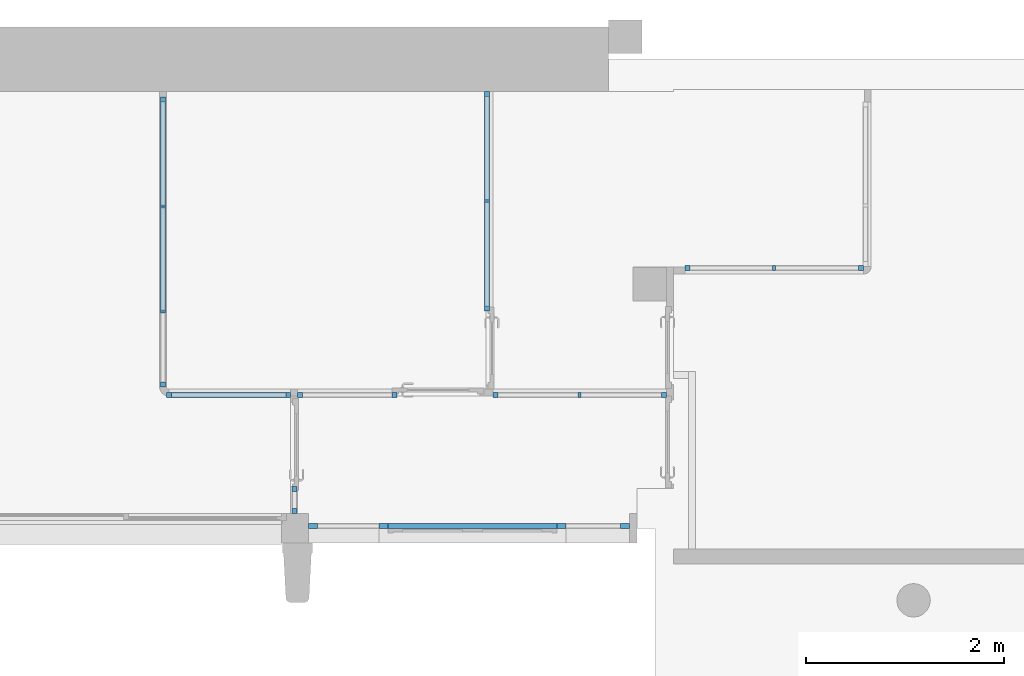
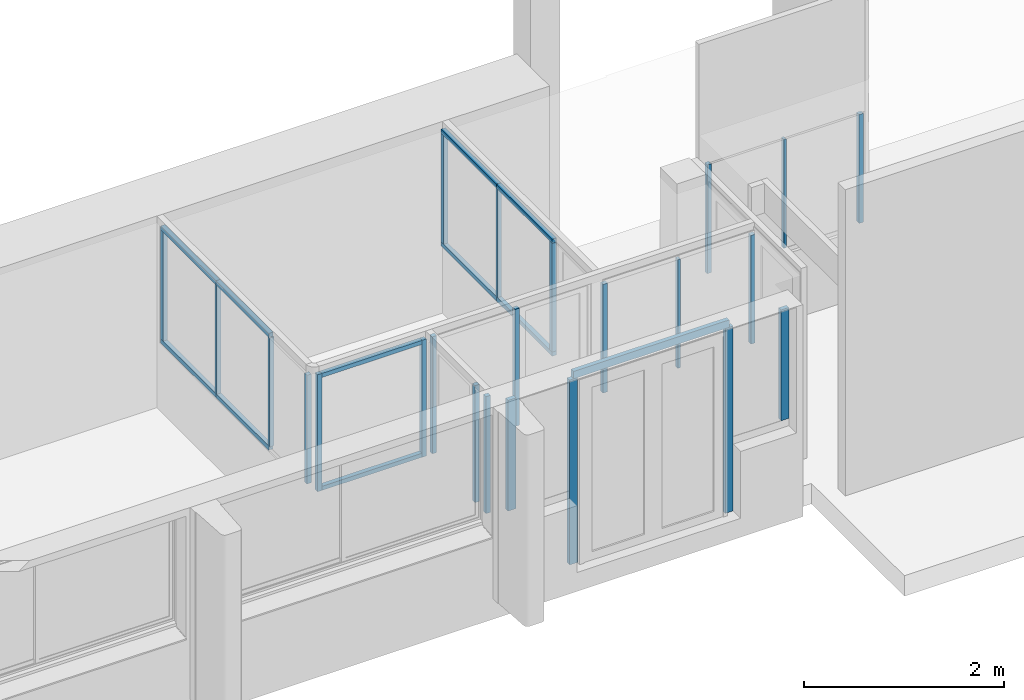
# One storey, part 2 of 19: 34 members, 8 elements without a shape of their own.
"""IFC4 building model written with IfcOpenShell, lengths in metres."""

from ifc_helpers import new_model, entity, si_unit, converted_unit, derived_unit, direction, frame, origin, place, context, subcontext, project, spatial, indexed_curve, outline, extrude, source, transform, mapped, material, type_object, type_shapes, element, aggregate, save


model = new_model("IFC4")

# Units and contexts
model_context = context("Model", 3, precision=1e-05, world=origin(), true_north=direction((6.12303176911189e-17, 1.0)))
body_context = subcontext(model_context, "Body", "Model", "MODEL_VIEW")
ifc_project = project(units=[si_unit("LENGTHUNIT", "METRE"), si_unit("AREAUNIT", "SQUARE_METRE"), si_unit("VOLUMEUNIT", "CUBIC_METRE"), converted_unit("PLANEANGLEUNIT", "DEGREE", entity("IfcRatioMeasure", 0.0174532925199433), si_unit("PLANEANGLEUNIT", "RADIAN"), dimensions=[0, 0, 0, 0, 0, 0, 0]), si_unit("MASSUNIT", "GRAM", prefix="KILO"), derived_unit("MASSDENSITYUNIT", [(si_unit("MASSUNIT", "GRAM", prefix="KILO"), 1), (si_unit("LENGTHUNIT", "METRE"), -3)]), derived_unit("MOMENTOFINERTIAUNIT", [(si_unit("LENGTHUNIT", "METRE"), 4)]), si_unit("TIMEUNIT", "SECOND"), si_unit("FREQUENCYUNIT", "HERTZ"), si_unit("THERMODYNAMICTEMPERATUREUNIT", "DEGREE_CELSIUS"), derived_unit("THERMALTRANSMITTANCEUNIT", [(si_unit("MASSUNIT", "GRAM", prefix="KILO"), 1), (si_unit("THERMODYNAMICTEMPERATUREUNIT", "KELVIN"), -1), (si_unit("TIMEUNIT", "SECOND"), -3)]), derived_unit("VOLUMETRICFLOWRATEUNIT", [(si_unit("LENGTHUNIT", "METRE"), 3), (si_unit("TIMEUNIT", "SECOND"), -1)]), si_unit("ELECTRICCURRENTUNIT", "AMPERE"), si_unit("ELECTRICVOLTAGEUNIT", "VOLT"), si_unit("POWERUNIT", "WATT"), si_unit("FORCEUNIT", "NEWTON", prefix="KILO"), si_unit("ILLUMINANCEUNIT", "LUX"), si_unit("LUMINOUSFLUXUNIT", "LUMEN"), si_unit("LUMINOUSINTENSITYUNIT", "CANDELA"), derived_unit("USERDEFINED", [(si_unit("MASSUNIT", "GRAM", prefix="KILO"), -1), (si_unit("LENGTHUNIT", "METRE"), -2), (si_unit("TIMEUNIT", "SECOND"), 3), (si_unit("LUMINOUSFLUXUNIT", "LUMEN"), 1)]), derived_unit("LINEARVELOCITYUNIT", [(si_unit("LENGTHUNIT", "METRE"), 1), (si_unit("TIMEUNIT", "SECOND"), -1)]), si_unit("PRESSUREUNIT", "PASCAL"), derived_unit("USERDEFINED", [(si_unit("LENGTHUNIT", "METRE"), -2), (si_unit("MASSUNIT", "GRAM", prefix="KILO"), 1), (si_unit("TIMEUNIT", "SECOND"), -2)]), derived_unit("LINEARFORCEUNIT", [(si_unit("MASSUNIT", "GRAM", prefix="KILO"), 1), (si_unit("LENGTHUNIT", "METRE"), 1), (si_unit("TIMEUNIT", "SECOND"), -2), (si_unit("LENGTHUNIT", "METRE"), -1)]), derived_unit("PLANARFORCEUNIT", [(si_unit("MASSUNIT", "GRAM", prefix="KILO"), 1), (si_unit("LENGTHUNIT", "METRE"), 1), (si_unit("TIMEUNIT", "SECOND"), -2), (si_unit("LENGTHUNIT", "METRE"), -2)])], contexts=[model_context])

# Site, building, storey
site_placement = place(None, origin())
site = spatial("IfcSite", under=ifc_project, at=site_placement, Name="Default", CompositionType="ELEMENT")
building_placement = place(site_placement, origin())
building = spatial("IfcBuilding", under=site, at=building_placement, Name="HOTEL CONSULAIRE BOULOGNE SUR MER", CompositionType="ELEMENT")
storey_placement = place(building_placement, frame((0.0, 0.0, -4.01003075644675)))
storey = spatial("IfcBuildingStorey", under=building, at=storey_placement, Name="SS2", CompositionType="ELEMENT", Elevation=-4.01003075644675)

# Curtain wall, members
curtain_wall_type = type_object("IfcCurtainWallType", Name="Mur-rideau:Simple panneau", PredefinedType="NOTDEFINED")
curtain_wall_1_placement = place(storey_placement, frame((0.0, 0.0, 4.01003075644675)))
curtain_wall_1 = element("IfcCurtainWall", 1, at=curtain_wall_1_placement, inside=storey, type_object=curtain_wall_type, Name="Mur-rideau:Simple panneau", ObjectType="Mur-rideau:Simple panneau", PredefinedType="NOTDEFINED")
ifc_material_1 = material(Name="PVC, souple", Category="Plastique")
member_type_1 = type_object("IfcMemberType", Name="Meneau rectangulaire:90x50", PredefinedType="MULLION", material=ifc_material_1)
shared_shape_1 = source(origin(), body_context, "Body", "SweptSolid", [
    extrude(outline(indexed_curve([(-0.025, -0.045), (0.025, -0.045), (0.025, 0.045), (-0.025, 0.045), (-0.025, -0.045)], self_intersect=False)), frame((-0.045, -0.025, -1.79999364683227), z_axis=(0.0, 0.0, 1.0), x_axis=(0.0, -1.0, 0.0)), (0.0, 0.0, 1.0), 1.79999364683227),
])
type_shapes(member_type_1, [shared_shape_1])
member_1_placement = place(storey_placement, frame((-14.6093496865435, -14.8875756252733, 2.33), z_axis=(1.0, 0.0, 0.0), x_axis=(0.0, 0.0, 1.0)))
member_1 = element("IfcMember", 2, at=member_1_placement, type_object=member_type_1, material=ifc_material_1, Name="Meneau rectangulaire:90x50", ObjectType="Meneau rectangulaire:90x50", PredefinedType="MULLION", context=body_context, shape_type="MappedRepresentation", body=[
    mapped(shared_shape_1, transform((0.0, 0.0, 0.0), scale=1.0)),
])
member_type_2 = type_object("IfcMemberType", Name="Meneau rectangulaire:90x50", PredefinedType="MULLION", material=ifc_material_1)
shared_shape_2 = source(origin(), body_context, "Body", "SweptSolid", [
    extrude(outline(indexed_curve([(-0.025, -0.045), (0.025, -0.045), (0.025, 0.045), (-0.025, 0.045), (-0.025, -0.045)], self_intersect=False)), frame((-0.045, -0.025, -1.35356778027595), z_axis=(0.0, 0.0, 1.0), x_axis=(0.0, -1.0, 0.0)), (0.0, 0.0, 1.0), 1.35356778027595),
])
type_shapes(member_type_2, [shared_shape_2])
member_2_placement = place(storey_placement, frame((-17.1647787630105, -14.8875756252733, 2.24), z_axis=(0.0, 0.0, 1.0), x_axis=(-1.0, 0.0, 0.0)))
member_2 = element("IfcMember", 3, at=member_2_placement, type_object=member_type_2, material=ifc_material_1, Name="Meneau rectangulaire:90x50", ObjectType="Meneau rectangulaire:90x50", PredefinedType="MULLION", context=body_context, shape_type="MappedRepresentation", body=[
    mapped(shared_shape_2, transform((0.0, 0.0, 0.0), scale=1.0)),
])
member_type_3 = type_object("IfcMemberType", Name="Meneau rectangulaire:90x50", PredefinedType="MULLION", material=ifc_material_1)
shared_shape_3 = source(origin(), body_context, "Body", "SweptSolid", [
    extrude(outline(indexed_curve([(-0.025, -0.045), (0.025, -0.045), (0.025, 0.045), (-0.025, 0.045), (-0.025, -0.045)], self_intersect=False)), frame((0.0, -0.025, -2.26), z_axis=(0.0, 0.0, 1.0), x_axis=(0.0, -1.0, 0.0)), (0.0, 0.0, 1.0), 2.26),
])
type_shapes(member_type_3, [shared_shape_3])
member_3_placement = place(storey_placement, frame((-14.6093496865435, -14.8875756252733, -0.0199999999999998), z_axis=(0.0, 0.0, -1.0), x_axis=(1.0, 0.0, 0.0)))
member_3 = element("IfcMember", 4, at=member_3_placement, type_object=member_type_3, material=ifc_material_1, Name="Meneau rectangulaire:90x50", ObjectType="Meneau rectangulaire:90x50", PredefinedType="MULLION", context=body_context, shape_type="MappedRepresentation", body=[
    mapped(shared_shape_3, transform((0.0, 0.0, 0.0), scale=1.0)),
])
member_4_placement = place(storey_placement, frame((-16.4093433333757, -14.8875756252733, -0.0199999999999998), z_axis=(0.0, 0.0, -1.0), x_axis=(1.0, 0.0, 0.0)))
member_4 = element("IfcMember", 5, at=member_4_placement, type_object=member_type_3, material=ifc_material_1, Name="Meneau rectangulaire:90x50", ObjectType="Meneau rectangulaire:90x50", PredefinedType="MULLION", context=body_context, shape_type="MappedRepresentation", body=[
    mapped(shared_shape_3, transform((0.0, 0.0, 0.0), scale=1.0)),
])
member_type_4 = type_object("IfcMemberType", Name="Meneau rectangulaire:90x50", PredefinedType="MULLION", material=ifc_material_1)
shared_shape_4 = source(origin(), body_context, "Body", "SweptSolid", [
    extrude(outline(indexed_curve([(-0.025, -0.045), (0.025, -0.045), (0.025, 0.045), (-0.025, 0.045), (-0.025, -0.045)], self_intersect=False)), frame((-0.045, -0.025, -1.35356778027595), z_axis=(0.0, 0.0, 1.0), x_axis=(0.0, -1.0, 0.0)), (0.0, 0.0, 1.0), 1.35356778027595),
])
type_shapes(member_type_4, [shared_shape_4])
member_5_placement = place(storey_placement, frame((-13.9187787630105, -14.8875756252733, 0.886432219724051), z_axis=(0.0, 0.0, -1.0), x_axis=(1.0, 0.0, 0.0)))
member_5 = element("IfcMember", 6, at=member_5_placement, type_object=member_type_4, material=ifc_material_1, Name="Meneau rectangulaire:90x50", ObjectType="Meneau rectangulaire:90x50", PredefinedType="MULLION", context=body_context, shape_type="MappedRepresentation", body=[
    mapped(shared_shape_4, transform((0.0, 0.0, 0.0), scale=1.0)),
])
aggregate(curtain_wall_1, [member_1, member_2, member_3, member_5, member_4])

# Curtain wall, member
curtain_wall_2_placement = place(storey_placement, frame((0.0, 0.0, 4.01003075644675)))
curtain_wall_2 = element("IfcCurtainWall", 7, at=curtain_wall_2_placement, inside=storey, type_object=curtain_wall_type, Name="Mur-rideau:Simple panneau", ObjectType="Mur-rideau:Simple panneau", PredefinedType="NOTDEFINED")
ifc_material_2 = material(Name="PVC - Blanc", Category="Plastique")
member_type_5 = type_object("IfcMemberType", Name="Meneau rectangulaire:50x50 PVC BLANC", PredefinedType="MULLION", material=ifc_material_2)
shared_shape_5 = source(origin(), body_context, "Body", "SweptSolid", [
    extrude(outline(indexed_curve([(-0.025, -0.025), (0.025, -0.025), (0.025, 0.025), (-0.025, 0.025), (-0.025, -0.025)], self_intersect=False)), frame((-0.025, -0.025, -1.42926671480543), z_axis=(0.0, 0.0, 1.0), x_axis=(0.0, -1.0, 0.0)), (0.0, 0.0, 1.0), 1.42926671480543),
])
type_shapes(member_type_5, [shared_shape_5])
member_6_placement = place(storey_placement, frame((-17.2824892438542, -14.7375756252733, 2.25353263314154), z_axis=(0.0, 0.0, 1.0), x_axis=(0.0, -1.0, 0.0)))
member_6 = element("IfcMember", 8, at=member_6_placement, type_object=member_type_5, material=ifc_material_2, Name="Meneau rectangulaire:50x50 PVC BLANC", ObjectType="Meneau rectangulaire:50x50 PVC BLANC", PredefinedType="MULLION", context=body_context, shape_type="MappedRepresentation", body=[
    mapped(shared_shape_5, transform((0.0, 0.0, 0.0), scale=1.0)),
])

curtain_wall_3_placement = place(storey_placement, frame((0.0, 0.0, 4.01003075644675)))
curtain_wall_3 = element("IfcCurtainWall", 9, at=curtain_wall_3_placement, inside=storey, type_object=curtain_wall_type, Name="Mur-rideau:Simple panneau", ObjectType="Mur-rideau:Simple panneau", PredefinedType="NOTDEFINED")
member_7_placement = place(storey_placement, frame((-17.3467787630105, -13.51432416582, 2.25353263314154)))
member_7 = element("IfcMember", 10, at=member_7_placement, type_object=member_type_5, material=ifc_material_2, Name="Meneau rectangulaire:50x50 PVC BLANC", ObjectType="Meneau rectangulaire:50x50 PVC BLANC", PredefinedType="MULLION", context=body_context, shape_type="MappedRepresentation", body=[
    mapped(shared_shape_5, transform((0.0, 0.0, 0.0), scale=1.0)),
])

curtain_wall_4_placement = place(storey_placement, frame((0.0, 0.0, 4.01003075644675)))
curtain_wall_4 = element("IfcCurtainWall", 11, at=curtain_wall_4_placement, inside=storey, type_object=curtain_wall_type, Name="Mur-rideau:Simple panneau", ObjectType="Mur-rideau:Simple panneau", PredefinedType="NOTDEFINED")
member_8_placement = place(storey_placement, frame((-16.2711943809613, -13.51432416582, 2.25353263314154)))
member_8 = element("IfcMember", 12, at=member_8_placement, type_object=member_type_5, material=ifc_material_2, Name="Meneau rectangulaire:50x50 PVC BLANC", ObjectType="Meneau rectangulaire:50x50 PVC BLANC", PredefinedType="MULLION", context=body_context, shape_type="MappedRepresentation", body=[
    mapped(shared_shape_5, transform((0.0, 0.0, 0.0), scale=1.0)),
])

# Member
member_type_6 = type_object("IfcMemberType", Name="Meneau rectangulaire:50x50 PVC BLANC", PredefinedType="MULLION", material=ifc_material_2)
shared_shape_6 = source(origin(), body_context, "Body", "SweptSolid", [
    extrude(outline(indexed_curve([(-0.025, -0.025), (0.025, -0.025), (0.025, 0.025), (-0.025, 0.025), (-0.025, -0.025)], self_intersect=False)), frame((-0.025, -0.025, -1.42926671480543), z_axis=(0.0, 0.0, 1.0), x_axis=(0.0, -1.0, 0.0)), (0.0, 0.0, 1.0), 1.42926671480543),
])
type_shapes(member_type_6, [shared_shape_6])
member_9_placement = place(storey_placement, frame((-17.2824892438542, -14.4655756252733, 0.824265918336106), z_axis=(0.0, 0.0, -1.0), x_axis=(0.0, 1.0, 0.0)))
member_9 = element("IfcMember", 13, at=member_9_placement, type_object=member_type_6, material=ifc_material_2, Name="Meneau rectangulaire:50x50 PVC BLANC", ObjectType="Meneau rectangulaire:50x50 PVC BLANC", PredefinedType="MULLION", context=body_context, shape_type="MappedRepresentation", body=[
    mapped(shared_shape_6, transform((0.0, 0.0, 0.0), scale=1.0)),
])

aggregate(curtain_wall_2, [member_6, member_9])

member_10_placement = place(storey_placement, frame((-18.6037787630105, -13.51432416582, 0.824265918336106), z_axis=(0.0, 0.0, -1.0), x_axis=(-1.0, 0.0, 0.0)))
member_10 = element("IfcMember", 14, at=member_10_placement, type_object=member_type_6, material=ifc_material_2, Name="Meneau rectangulaire:50x50 PVC BLANC", ObjectType="Meneau rectangulaire:50x50 PVC BLANC", PredefinedType="MULLION", context=body_context, shape_type="MappedRepresentation", body=[
    mapped(shared_shape_6, transform((0.0, 0.0, 0.0), scale=1.0)),
])

member_11_placement = place(storey_placement, frame((-17.2767787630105, -13.51432416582, 0.824265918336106), z_axis=(0.0, 0.0, -1.0), x_axis=(-1.0, 0.0, 0.0)))
member_11 = element("IfcMember", 15, at=member_11_placement, type_object=member_type_6, material=ifc_material_2, Name="Meneau rectangulaire:50x50 PVC BLANC", ObjectType="Meneau rectangulaire:50x50 PVC BLANC", PredefinedType="MULLION", context=body_context, shape_type="MappedRepresentation", body=[
    mapped(shared_shape_6, transform((0.0, 0.0, 0.0), scale=1.0)),
])

aggregate(curtain_wall_4, [member_8, member_11])

# Curtain wall, member
curtain_wall_5_placement = place(storey_placement, frame((0.0, 0.0, 4.01003075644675)))
curtain_wall_5 = element("IfcCurtainWall", 16, at=curtain_wall_5_placement, inside=storey, type_object=curtain_wall_type, Name="Mur-rideau:Simple panneau", ObjectType="Mur-rideau:Simple panneau", PredefinedType="NOTDEFINED")
member_type_7 = type_object("IfcMemberType", Name="Meneau rectangulaire:50x50 PVC BLANC", PredefinedType="MULLION", material=ifc_material_2)
shared_shape_7 = source(origin(), body_context, "Body", "SweptSolid", [
    extrude(outline(indexed_curve([(-0.025, -0.025), (0.025, -0.025), (0.025, 0.025), (-0.025, 0.025), (-0.025, -0.025)], self_intersect=False)), frame((-0.025, -0.025, -1.32926671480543), z_axis=(0.0, 0.0, 1.0), x_axis=(0.0, -1.0, 0.0)), (0.0, 0.0, 1.0), 1.32926671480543),
])
type_shapes(member_type_7, [shared_shape_7])
member_12_placement = place(storey_placement, frame((-13.3579806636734, -12.2801492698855, 2.20353263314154), z_axis=(0.0, 0.0, 1.0), x_axis=(-1.0, 0.0, 0.0)))
member_12 = element("IfcMember", 17, at=member_12_placement, type_object=member_type_7, material=ifc_material_2, Name="Meneau rectangulaire:50x50 PVC BLANC", ObjectType="Meneau rectangulaire:50x50 PVC BLANC", PredefinedType="MULLION", context=body_context, shape_type="MappedRepresentation", body=[
    mapped(shared_shape_7, transform((0.0, 0.0, 0.0), scale=1.0)),
])

curtain_wall_6_placement = place(storey_placement, frame((0.0, 0.0, 4.01003075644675)))
curtain_wall_6 = element("IfcCurtainWall", 18, at=curtain_wall_6_placement, inside=storey, type_object=curtain_wall_type, Name="Mur-rideau:Simple panneau", ObjectType="Mur-rideau:Simple panneau", PredefinedType="NOTDEFINED")
member_13_placement = place(storey_placement, frame((-15.3371943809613, -12.6893241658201, 2.20353263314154), z_axis=(0.0, 0.0, 1.0), x_axis=(0.0, -1.0, 0.0)))
member_13 = element("IfcMember", 19, at=member_13_placement, type_object=member_type_7, material=ifc_material_2, Name="Meneau rectangulaire:50x50 PVC BLANC", ObjectType="Meneau rectangulaire:50x50 PVC BLANC", PredefinedType="MULLION", context=body_context, shape_type="MappedRepresentation", body=[
    mapped(shared_shape_7, transform((0.0, 0.0, 0.0), scale=1.0)),
])

curtain_wall_7_placement = place(storey_placement, frame((0.0, 0.0, 4.01003075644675)))
curtain_wall_7 = element("IfcCurtainWall", 20, at=curtain_wall_7_placement, inside=storey, type_object=curtain_wall_type, Name="Mur-rideau:Simple panneau", ObjectType="Mur-rideau:Simple panneau", PredefinedType="NOTDEFINED")
member_14_placement = place(storey_placement, frame((-13.5453496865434, -13.51432416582, 2.20353263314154)))
member_14 = element("IfcMember", 21, at=member_14_placement, type_object=member_type_7, material=ifc_material_2, Name="Meneau rectangulaire:50x50 PVC BLANC", ObjectType="Meneau rectangulaire:50x50 PVC BLANC", PredefinedType="MULLION", context=body_context, shape_type="MappedRepresentation", body=[
    mapped(shared_shape_7, transform((0.0, 0.0, 0.0), scale=1.0)),
])

curtain_wall_8_placement = place(storey_placement, frame((0.0, 0.0, 4.01003075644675)))
curtain_wall_8 = element("IfcCurtainWall", 22, at=curtain_wall_8_placement, inside=storey, type_object=curtain_wall_type, Name="Mur-rideau:Simple panneau", ObjectType="Mur-rideau:Simple panneau", PredefinedType="NOTDEFINED")
member_15_placement = place(storey_placement, frame((-18.6137787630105, -13.45532416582, 2.20353263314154), z_axis=(0.0, 0.0, 1.0), x_axis=(0.0, -1.0, 0.0)))
member_15 = element("IfcMember", 23, at=member_15_placement, type_object=member_type_7, material=ifc_material_2, Name="Meneau rectangulaire:50x50 PVC BLANC", ObjectType="Meneau rectangulaire:50x50 PVC BLANC", PredefinedType="MULLION", context=body_context, shape_type="MappedRepresentation", body=[
    mapped(shared_shape_7, transform((0.0, 0.0, 0.0), scale=1.0)),
])

# Member
member_type_8 = type_object("IfcMemberType", Name="Meneau rectangulaire:50x50 PVC BLANC", PredefinedType="MULLION", material=ifc_material_2)
shared_shape_8 = source(origin(), body_context, "Body", "SweptSolid", [
    extrude(outline(indexed_curve([(-0.025, -0.025), (0.025, -0.025), (0.025, 0.025), (-0.025, 0.025), (-0.025, -0.025)], self_intersect=False)), frame((-0.025, -0.025, -1.32926671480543), z_axis=(0.0, 0.0, 1.0), x_axis=(0.0, -1.0, 0.0)), (0.0, 0.0, 1.0), 1.32926671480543),
])
type_shapes(member_type_8, [shared_shape_8])
member_16_placement = place(storey_placement, frame((-11.5529610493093, -12.2801492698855, 0.874265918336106), z_axis=(0.0, 0.0, -1.0), x_axis=(1.0, 0.0, 0.0)))
member_16 = element("IfcMember", 24, at=member_16_placement, type_object=member_type_8, material=ifc_material_2, Name="Meneau rectangulaire:50x50 PVC BLANC", ObjectType="Meneau rectangulaire:50x50 PVC BLANC", PredefinedType="MULLION", context=body_context, shape_type="MappedRepresentation", body=[
    mapped(shared_shape_8, transform((0.0, 0.0, 0.0), scale=1.0)),
])

member_17_placement = place(storey_placement, frame((-15.3371943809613, -10.4663241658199, 0.874265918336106), z_axis=(0.0, 0.0, -1.0), x_axis=(0.0, 1.0, 0.0)))
member_17 = element("IfcMember", 25, at=member_17_placement, type_object=member_type_8, material=ifc_material_2, Name="Meneau rectangulaire:50x50 PVC BLANC", ObjectType="Meneau rectangulaire:50x50 PVC BLANC", PredefinedType="MULLION", context=body_context, shape_type="MappedRepresentation", body=[
    mapped(shared_shape_8, transform((0.0, 0.0, 0.0), scale=1.0)),
])

member_18_placement = place(storey_placement, frame((-15.3021943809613, -13.51432416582, 0.874265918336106), z_axis=(0.0, 0.0, -1.0), x_axis=(-1.0, 0.0, 0.0)))
member_18 = element("IfcMember", 26, at=member_18_placement, type_object=member_type_8, material=ifc_material_2, Name="Meneau rectangulaire:50x50 PVC BLANC", ObjectType="Meneau rectangulaire:50x50 PVC BLANC", PredefinedType="MULLION", context=body_context, shape_type="MappedRepresentation", body=[
    mapped(shared_shape_8, transform((0.0, 0.0, 0.0), scale=1.0)),
])

member_19_placement = place(storey_placement, frame((-18.6137787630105, -10.5244760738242, 0.874265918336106), z_axis=(0.0, 0.0, -1.0), x_axis=(0.0, 1.0, 0.0)))
member_19 = element("IfcMember", 27, at=member_19_placement, type_object=member_type_8, material=ifc_material_2, Name="Meneau rectangulaire:50x50 PVC BLANC", ObjectType="Meneau rectangulaire:50x50 PVC BLANC", PredefinedType="MULLION", context=body_context, shape_type="MappedRepresentation", body=[
    mapped(shared_shape_8, transform((0.0, 0.0, 0.0), scale=1.0)),
])

member_type_9 = type_object("IfcMemberType", Name="Meneau rectangulaire:50x30", PredefinedType="MULLION", material=ifc_material_2)
shared_shape_9 = source(origin(), body_context, "Body", "SweptSolid", [
    extrude(outline(indexed_curve([(-0.025, -0.015), (0.025, -0.015), (0.025, 0.015), (-0.025, 0.015), (-0.025, -0.015)], self_intersect=False)), frame((0.0, -0.025, -1.32926671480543), z_axis=(0.0, 0.0, 1.0), x_axis=(0.0, -1.0, 0.0)), (0.0, 0.0, 1.0), 1.32926671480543),
])
type_shapes(member_type_9, [shared_shape_9])
member_20_placement = place(storey_placement, frame((-12.4589708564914, -12.2801492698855, 0.874265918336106), z_axis=(0.0, 0.0, -1.0), x_axis=(1.0, 0.0, 0.0)))
member_20 = element("IfcMember", 28, at=member_20_placement, type_object=member_type_9, material=ifc_material_2, Name="Meneau rectangulaire:50x30", ObjectType="Meneau rectangulaire:50x30", PredefinedType="MULLION", context=body_context, shape_type="MappedRepresentation", body=[
    mapped(shared_shape_9, transform((0.0, 0.0, 0.0), scale=1.0)),
])

aggregate(curtain_wall_5, [member_12, member_16, member_20])

member_21_placement = place(storey_placement, frame((-15.3371943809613, -11.57782416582, 0.874265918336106), z_axis=(0.0, 0.0, -1.0), x_axis=(0.0, 1.0, 0.0)))
member_21 = element("IfcMember", 29, at=member_21_placement, type_object=member_type_9, material=ifc_material_2, Name="Meneau rectangulaire:50x30", ObjectType="Meneau rectangulaire:50x30", PredefinedType="MULLION", context=body_context, shape_type="MappedRepresentation", body=[
    mapped(shared_shape_9, transform((0.0, 0.0, 0.0), scale=1.0)),
])

member_22_placement = place(storey_placement, frame((-14.4237720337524, -13.51432416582, 0.874265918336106), z_axis=(0.0, 0.0, -1.0), x_axis=(-1.0, 0.0, 0.0)))
member_22 = element("IfcMember", 30, at=member_22_placement, type_object=member_type_9, material=ifc_material_2, Name="Meneau rectangulaire:50x30", ObjectType="Meneau rectangulaire:50x30", PredefinedType="MULLION", context=body_context, shape_type="MappedRepresentation", body=[
    mapped(shared_shape_9, transform((0.0, 0.0, 0.0), scale=1.0)),
])

aggregate(curtain_wall_7, [member_14, member_18, member_22])

member_23_placement = place(storey_placement, frame((-18.6137787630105, -11.6323241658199, 0.874265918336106), z_axis=(0.0, 0.0, -1.0), x_axis=(0.0, 1.0, 0.0)))
member_23 = element("IfcMember", 31, at=member_23_placement, type_object=member_type_9, material=ifc_material_2, Name="Meneau rectangulaire:50x30", ObjectType="Meneau rectangulaire:50x30", PredefinedType="MULLION", context=body_context, shape_type="MappedRepresentation", body=[
    mapped(shared_shape_9, transform((0.0, 0.0, 0.0), scale=1.0)),
])

member_24_placement = place(storey_placement, frame((-18.6137787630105, -12.69232416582, 0.874265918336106), z_axis=(0.0, 0.0, -1.0), x_axis=(0.0, 1.0, 0.0)))
member_24 = element("IfcMember", 32, at=member_24_placement, type_object=member_type_9, material=ifc_material_2, Name="Meneau rectangulaire:50x30", ObjectType="Meneau rectangulaire:50x30", PredefinedType="MULLION", context=body_context, shape_type="MappedRepresentation", body=[
    mapped(shared_shape_9, transform((0.0, 0.0, 0.0), scale=1.0)),
])

member_type_10 = type_object("IfcMemberType", Name="Meneau rectangulaire:50x50 PVC BLANC", PredefinedType="MULLION", material=ifc_material_2)
shared_shape_10 = source(origin(), body_context, "Body", "SweptSolid", [
    extrude(outline(indexed_curve([(-0.025, -0.025), (0.025, -0.025), (0.025, 0.025), (-0.025, 0.025), (-0.025, -0.025)], self_intersect=False)), frame((-0.025, -0.025, -1.11150000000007), z_axis=(0.0, 0.0, 1.0), x_axis=(0.0, -1.0, 0.0)), (0.0, 0.0, 1.0), 1.11150000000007),
])
type_shapes(member_type_10, [shared_shape_10])
member_25_placement = place(storey_placement, frame((-15.3371943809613, -10.4663241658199, 2.25353263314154), z_axis=(0.0, 1.0, 0.0), x_axis=(0.0, 0.0, 1.0)))
member_25 = element("IfcMember", 33, at=member_25_placement, type_object=member_type_10, material=ifc_material_2, Name="Meneau rectangulaire:50x50 PVC BLANC", ObjectType="Meneau rectangulaire:50x50 PVC BLANC", PredefinedType="MULLION", context=body_context, shape_type="MappedRepresentation", body=[
    mapped(shared_shape_10, transform((0.0, 0.0, 0.0), scale=1.0)),
])

member_type_11 = type_object("IfcMemberType", Name="Meneau rectangulaire:50x50 PVC BLANC", PredefinedType="MULLION", material=ifc_material_2)
shared_shape_11 = source(origin(), body_context, "Body", "SweptSolid", [
    extrude(outline(indexed_curve([(-0.025, -0.025), (0.025, -0.025), (0.025, 0.025), (-0.025, 0.025), (-0.025, -0.025)], self_intersect=False)), frame((-0.025, -0.025, -1.11150000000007), z_axis=(0.0, 0.0, 1.0), x_axis=(0.0, -1.0, 0.0)), (0.0, 0.0, 1.0), 1.11150000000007),
])
type_shapes(member_type_11, [shared_shape_11])
member_26_placement = place(storey_placement, frame((-15.3371943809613, -12.6893241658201, 0.824265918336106), z_axis=(0.0, -1.0, 0.0), x_axis=(0.0, 0.0, -1.0)))
member_26 = element("IfcMember", 34, at=member_26_placement, type_object=member_type_11, material=ifc_material_2, Name="Meneau rectangulaire:50x50 PVC BLANC", ObjectType="Meneau rectangulaire:50x50 PVC BLANC", PredefinedType="MULLION", context=body_context, shape_type="MappedRepresentation", body=[
    mapped(shared_shape_11, transform((0.0, 0.0, 0.0), scale=1.0)),
])

member_type_12 = type_object("IfcMemberType", Name="Meneau rectangulaire:50x50 PVC BLANC", PredefinedType="MULLION", material=ifc_material_2)
shared_shape_12 = source(origin(), body_context, "Body", "SweptSolid", [
    extrude(outline(indexed_curve([(-0.025, -0.025), (0.025, -0.025), (0.025, 0.025), (-0.025, 0.025), (-0.025, -0.025)], self_intersect=False)), frame((-0.025, -0.025, -1.11150000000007), z_axis=(0.0, 0.0, 1.0), x_axis=(0.0, -1.0, 0.0)), (0.0, 0.0, 1.0), 1.11150000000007),
])
type_shapes(member_type_12, [shared_shape_12])
member_27_placement = place(storey_placement, frame((-15.3371943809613, -11.57782416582, 0.824265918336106), z_axis=(0.0, -1.0, 0.0), x_axis=(0.0, 0.0, -1.0)))
member_27 = element("IfcMember", 35, at=member_27_placement, type_object=member_type_12, material=ifc_material_2, Name="Meneau rectangulaire:50x50 PVC BLANC", ObjectType="Meneau rectangulaire:50x50 PVC BLANC", PredefinedType="MULLION", context=body_context, shape_type="MappedRepresentation", body=[
    mapped(shared_shape_12, transform((0.0, 0.0, 0.0), scale=1.0)),
])

member_type_13 = type_object("IfcMemberType", Name="Meneau rectangulaire:50x50 PVC BLANC", PredefinedType="MULLION", material=ifc_material_2)
shared_shape_13 = source(origin(), body_context, "Body", "SweptSolid", [
    extrude(outline(indexed_curve([(-0.025, -0.025), (0.025, -0.025), (0.025, 0.025), (-0.025, 0.025), (-0.025, -0.025)], self_intersect=False)), frame((-0.025, -0.025, -1.11150000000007), z_axis=(0.0, 0.0, 1.0), x_axis=(0.0, -1.0, 0.0)), (0.0, 0.0, 1.0), 1.11150000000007),
])
type_shapes(member_type_13, [shared_shape_13])
member_28_placement = place(storey_placement, frame((-15.3371943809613, -11.57782416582, 2.25353263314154), z_axis=(0.0, 1.0, 0.0), x_axis=(0.0, 0.0, 1.0)))
member_28 = element("IfcMember", 36, at=member_28_placement, type_object=member_type_13, material=ifc_material_2, Name="Meneau rectangulaire:50x50 PVC BLANC", ObjectType="Meneau rectangulaire:50x50 PVC BLANC", PredefinedType="MULLION", context=body_context, shape_type="MappedRepresentation", body=[
    mapped(shared_shape_13, transform((0.0, 0.0, 0.0), scale=1.0)),
])

aggregate(curtain_wall_6, [member_13, member_25, member_17, member_26, member_21, member_27, member_28])

member_type_14 = type_object("IfcMemberType", Name="Meneau rectangulaire:50x50 PVC BLANC", PredefinedType="MULLION", material=ifc_material_2)
shared_shape_14 = source(origin(), body_context, "Body", "SweptSolid", [
    extrude(outline(indexed_curve([(-0.025, -0.025), (0.025, -0.025), (0.025, 0.025), (-0.025, 0.025), (-0.025, -0.025)], self_intersect=False)), frame((-0.025, -0.025, -1.10784809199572), z_axis=(0.0, 0.0, 1.0), x_axis=(0.0, -1.0, 0.0)), (0.0, 0.0, 1.0), 1.10784809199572),
])
type_shapes(member_type_14, [shared_shape_14])
member_29_placement = place(storey_placement, frame((-18.6137787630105, -10.5244760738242, 2.25353263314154), z_axis=(0.0, 1.0, 0.0), x_axis=(0.0, 0.0, 1.0)))
member_29 = element("IfcMember", 37, at=member_29_placement, type_object=member_type_14, material=ifc_material_2, Name="Meneau rectangulaire:50x50 PVC BLANC", ObjectType="Meneau rectangulaire:50x50 PVC BLANC", PredefinedType="MULLION", context=body_context, shape_type="MappedRepresentation", body=[
    mapped(shared_shape_14, transform((0.0, 0.0, 0.0), scale=1.0)),
])

member_type_15 = type_object("IfcMemberType", Name="Meneau rectangulaire:50x50 PVC BLANC", PredefinedType="MULLION", material=ifc_material_2)
shared_shape_15 = source(origin(), body_context, "Body", "SweptSolid", [
    extrude(outline(indexed_curve([(-0.025, -0.025), (0.025, -0.025), (0.025, 0.025), (-0.025, 0.025), (-0.025, -0.025)], self_intersect=False)), frame((-0.025, -0.025, -1.10784809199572), z_axis=(0.0, 0.0, 1.0), x_axis=(0.0, -1.0, 0.0)), (0.0, 0.0, 1.0), 1.10784809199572),
])
type_shapes(member_type_15, [shared_shape_15])
member_30_placement = place(storey_placement, frame((-18.6137787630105, -11.6323241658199, 0.824265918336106), z_axis=(0.0, -1.0, 0.0), x_axis=(0.0, 0.0, -1.0)))
member_30 = element("IfcMember", 38, at=member_30_placement, type_object=member_type_15, material=ifc_material_2, Name="Meneau rectangulaire:50x50 PVC BLANC", ObjectType="Meneau rectangulaire:50x50 PVC BLANC", PredefinedType="MULLION", context=body_context, shape_type="MappedRepresentation", body=[
    mapped(shared_shape_15, transform((0.0, 0.0, 0.0), scale=1.0)),
])

member_type_16 = type_object("IfcMemberType", Name="Meneau rectangulaire:50x50 PVC BLANC", PredefinedType="MULLION", material=ifc_material_2)
shared_shape_16 = source(origin(), body_context, "Body", "SweptSolid", [
    extrude(outline(indexed_curve([(-0.025, -0.025), (0.025, -0.025), (0.025, 0.025), (-0.025, 0.025), (-0.025, -0.025)], self_intersect=False)), frame((-0.025, -0.025, -1.06000000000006), z_axis=(0.0, 0.0, 1.0), x_axis=(0.0, -1.0, 0.0)), (0.0, 0.0, 1.0), 1.06000000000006),
])
type_shapes(member_type_16, [shared_shape_16])
member_31_placement = place(storey_placement, frame((-18.6137787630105, -12.69232416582, 0.824265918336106), z_axis=(0.0, -1.0, 0.0), x_axis=(0.0, 0.0, -1.0)))
member_31 = element("IfcMember", 39, at=member_31_placement, type_object=member_type_16, material=ifc_material_2, Name="Meneau rectangulaire:50x50 PVC BLANC", ObjectType="Meneau rectangulaire:50x50 PVC BLANC", PredefinedType="MULLION", context=body_context, shape_type="MappedRepresentation", body=[
    mapped(shared_shape_16, transform((0.0, 0.0, 0.0), scale=1.0)),
])

member_type_17 = type_object("IfcMemberType", Name="Meneau rectangulaire:50x50 PVC BLANC", PredefinedType="MULLION", material=ifc_material_2)
shared_shape_17 = source(origin(), body_context, "Body", "SweptSolid", [
    extrude(outline(indexed_curve([(-0.025, -0.025), (0.025, -0.025), (0.025, 0.025), (-0.025, 0.025), (-0.025, -0.025)], self_intersect=False)), frame((-0.025, -0.025, -1.06000000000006), z_axis=(0.0, 0.0, 1.0), x_axis=(0.0, -1.0, 0.0)), (0.0, 0.0, 1.0), 1.06000000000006),
])
type_shapes(member_type_17, [shared_shape_17])
member_32_placement = place(storey_placement, frame((-18.6137787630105, -11.6323241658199, 2.25353263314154), z_axis=(0.0, 1.0, 0.0), x_axis=(0.0, 0.0, 1.0)))
member_32 = element("IfcMember", 40, at=member_32_placement, type_object=member_type_17, material=ifc_material_2, Name="Meneau rectangulaire:50x50 PVC BLANC", ObjectType="Meneau rectangulaire:50x50 PVC BLANC", PredefinedType="MULLION", context=body_context, shape_type="MappedRepresentation", body=[
    mapped(shared_shape_17, transform((0.0, 0.0, 0.0), scale=1.0)),
])

aggregate(curtain_wall_8, [member_15, member_29, member_19, member_23, member_24, member_30, member_31, member_32])

member_type_18 = type_object("IfcMemberType", Name="Meneau rectangulaire:50x50 PVC BLANC", PredefinedType="MULLION", material=ifc_material_2)
shared_shape_18 = source(origin(), body_context, "Body", "SweptSolid", [
    extrude(outline(indexed_curve([(-0.025, -0.025), (0.025, -0.025), (0.025, 0.025), (-0.025, 0.025), (-0.025, -0.025)], self_intersect=False)), frame((-0.025, -0.025, -1.157), z_axis=(0.0, 0.0, 1.0), x_axis=(0.0, -1.0, 0.0)), (0.0, 0.0, 1.0), 1.157),
])
type_shapes(member_type_18, [shared_shape_18])
member_33_placement = place(storey_placement, frame((-18.5537787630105, -13.51432416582, 2.25353263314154), z_axis=(-1.0, 0.0, 0.0), x_axis=(0.0, 0.0, 1.0)))
member_33 = element("IfcMember", 41, at=member_33_placement, type_object=member_type_18, material=ifc_material_2, Name="Meneau rectangulaire:50x50 PVC BLANC", ObjectType="Meneau rectangulaire:50x50 PVC BLANC", PredefinedType="MULLION", context=body_context, shape_type="MappedRepresentation", body=[
    mapped(shared_shape_18, transform((0.0, 0.0, 0.0), scale=1.0)),
])

member_type_19 = type_object("IfcMemberType", Name="Meneau rectangulaire:50x50 PVC BLANC", PredefinedType="MULLION", material=ifc_material_2)
shared_shape_19 = source(origin(), body_context, "Body", "SweptSolid", [
    extrude(outline(indexed_curve([(-0.025, -0.025), (0.025, -0.025), (0.025, 0.025), (-0.025, 0.025), (-0.025, -0.025)], self_intersect=False)), frame((-0.025, -0.025, -1.157), z_axis=(0.0, 0.0, 1.0), x_axis=(0.0, -1.0, 0.0)), (0.0, 0.0, 1.0), 1.157),
])
type_shapes(member_type_19, [shared_shape_19])
member_34_placement = place(storey_placement, frame((-17.3967787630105, -13.51432416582, 0.824265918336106), z_axis=(1.0, 0.0, 0.0), x_axis=(0.0, 0.0, -1.0)))
member_34 = element("IfcMember", 42, at=member_34_placement, type_object=member_type_19, material=ifc_material_2, Name="Meneau rectangulaire:50x50 PVC BLANC", ObjectType="Meneau rectangulaire:50x50 PVC BLANC", PredefinedType="MULLION", context=body_context, shape_type="MappedRepresentation", body=[
    mapped(shared_shape_19, transform((0.0, 0.0, 0.0), scale=1.0)),
])

aggregate(curtain_wall_3, [member_7, member_33, member_10, member_34])

save(model, "model.ifc")
